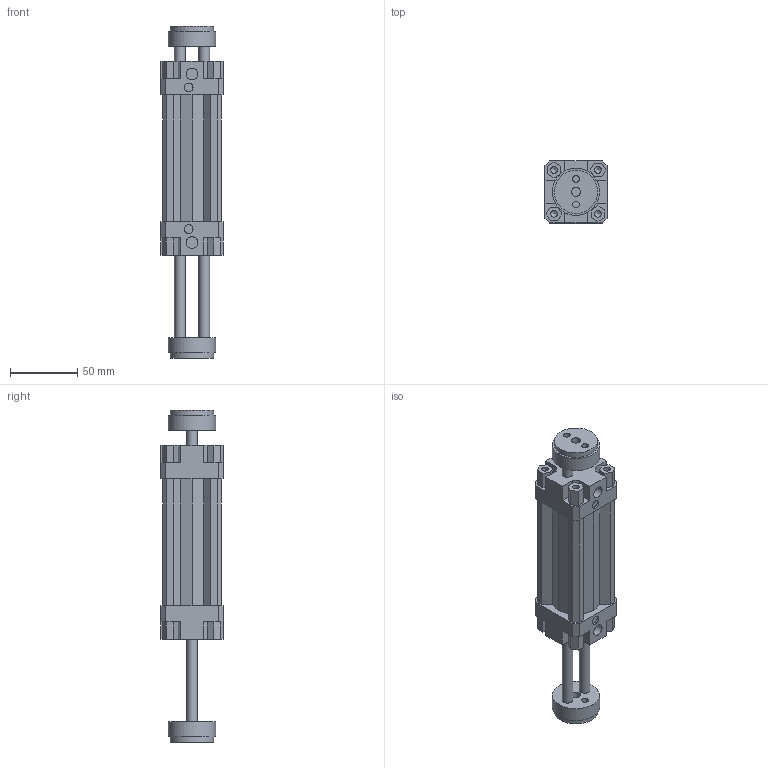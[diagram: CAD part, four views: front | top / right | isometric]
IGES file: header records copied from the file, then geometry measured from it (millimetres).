
Global section: file name: 132#_032_0050_06; native system: Autodesk Inventor 2014; preprocessor: unknown; author: A. Manieri; date: 20161006.154628; units: millimetre
Bounding box: 46 x 46 x 246 mm (x, y, z)
Volume: 223698.9 mm3; surface area: 73983.7 mm2
Topology: 2 solids, 2 shells, 190 faces, 518 edges, 354 vertices
Faces by surface type: bspline 190
